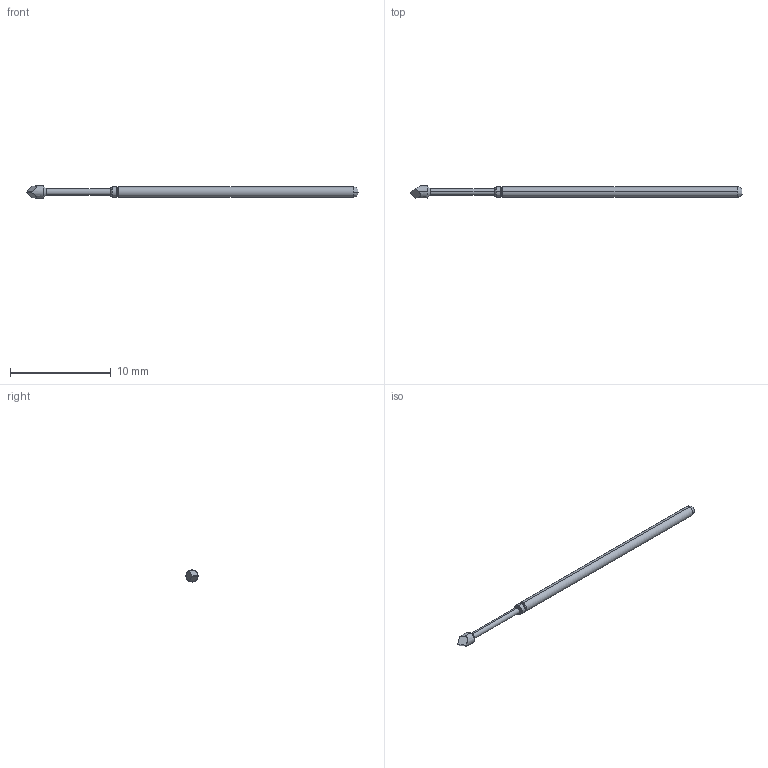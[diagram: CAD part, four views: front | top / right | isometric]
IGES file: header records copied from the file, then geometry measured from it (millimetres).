
Start section: SolidWorks IGES file using analytic representation for surfaces
Global section: file name: Z:\probe solid model mockups\Solidworks models\Parts\LFRE-1T.IGS; native system: SolidWorks 2016; preprocessor: SolidWorks 2016; author: mlee; date: 180927.163805; units: inch
Bounding box: 33.02 x 1.19 x 1.19 mm (x, y, z)
Surface area: 98.1 mm2 (no closed solid volume)
Topology: 0 solids, 0 shells, 25 faces, 182 edges, 182 vertices
Faces by surface type: revolution 16, bspline 9
